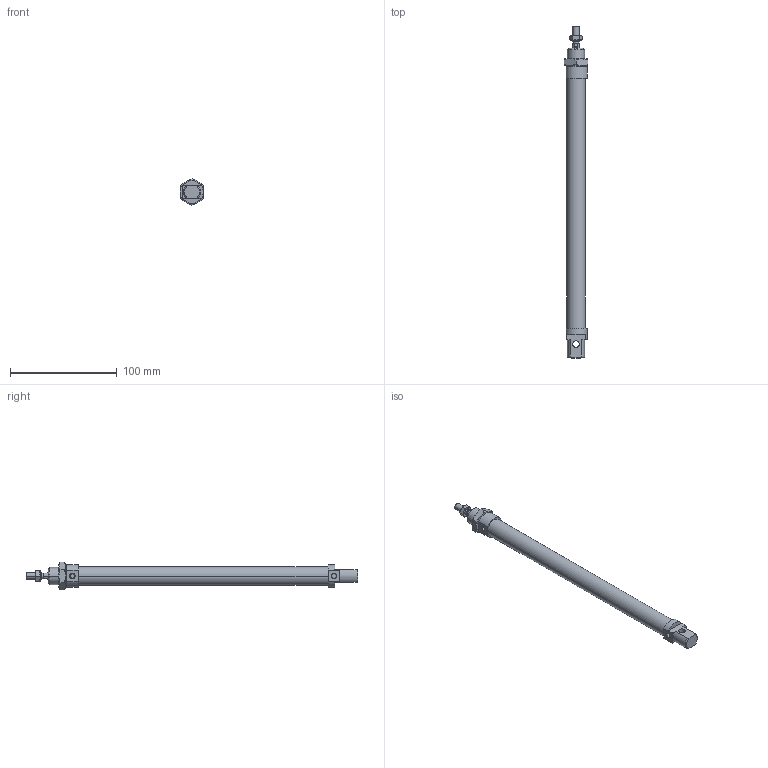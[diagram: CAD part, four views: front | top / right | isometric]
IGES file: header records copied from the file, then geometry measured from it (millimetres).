
Global section: file name: No Iges File Name specified; native system: Autodesk Inventor 2010; preprocessor: AutoDesk Inventor Iges Exporter R2010; author: rivolro1; date: 20090604.093233; units: millimetre
Bounding box: 22 x 311 x 25.4 mm (x, y, z)
Volume: 69331.3 mm3; surface area: 27393.7 mm2
Topology: 4 solids, 4 shells, 107 faces, 236 edges, 144 vertices
Faces by surface type: plane 39, cone 28, bspline 20, cylinder 14, revolution 6
